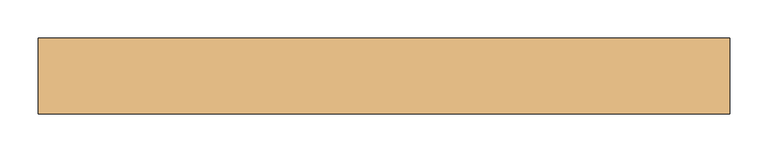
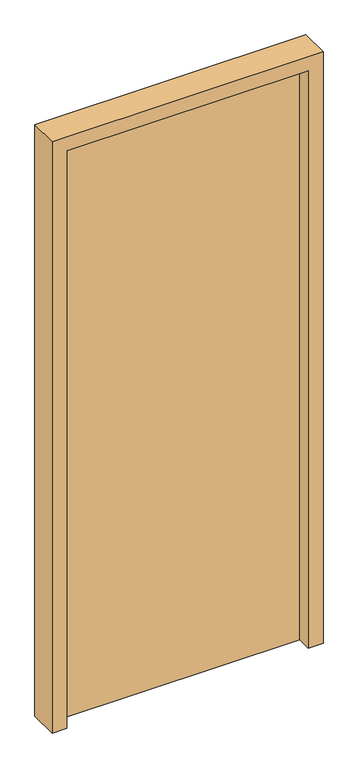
"""IFC4 building model written with IfcOpenShell, lengths in millimetres: door geometry, (Dr)_ДУ(распашная)_1Ст_Прямоугольная : (Вн)_ДГ(0.91х2.1(h))."""

from ifc_helpers import new_model, si_unit, frame, origin, origin_with_axes, place, context, project, spatial, polyline, outline, extrude, source, transform, mapped, element, save


def door_d1c1a40c(model_context):
    return source(origin(), model_context, "Body", "SweptSolid", [
        extrude(outline(polyline([(-405.0, 50.0), (405.0, 50.0), (405.0, 0.0), (-405.0, 0.0), (-405.0, 50.0)])), origin_with_axes(), (0.0, 0.0, 1.0), 2050.0),
        extrude(outline(polyline([(0.0, -455.0), (0.0, -405.0), (2050.0, -405.0), (2050.0, 405.0), (0.0, 405.0), (0.0, 455.0), (2100.0, 455.0), (2100.0, -455.0), (0.0, -455.0)])), frame((0.0, -50.0, 0.0), z_axis=(0.0, 1.0, 0.0), x_axis=(0.0, 0.0, 1.0)), (0.0, 0.0, 1.0), 100.0),
    ])


if __name__ == "__main__":
    model = new_model("IFC4")
    model_context = context("Model", 3, world=origin())
    ifc_project = project(units=[si_unit("LENGTHUNIT", "METRE", prefix="MILLI")], contexts=[model_context])
    site = spatial("IfcSite", under=ifc_project)
    building = spatial("IfcBuilding", under=site)
    placement = place(None, origin())
    door_shape = door_d1c1a40c(model_context)
    element("IfcDoor", 1, ObjectType="(Dr)_ДУ(распашная)_1Ст_Прямоугольная : (Вн)_ДГ(0.91х2.1(h))", at=placement, inside=building, context=model_context, shape_type="MappedRepresentation", body=[
        mapped(door_shape, transform((0.0, 0.0, 0.0), x_axis=(1.0, 0.0, 0.0), y_axis=(0.0, 1.0, 0.0), z_axis=(0.0, 0.0, 1.0))),
    ])
    save(model, "model.ifc")
